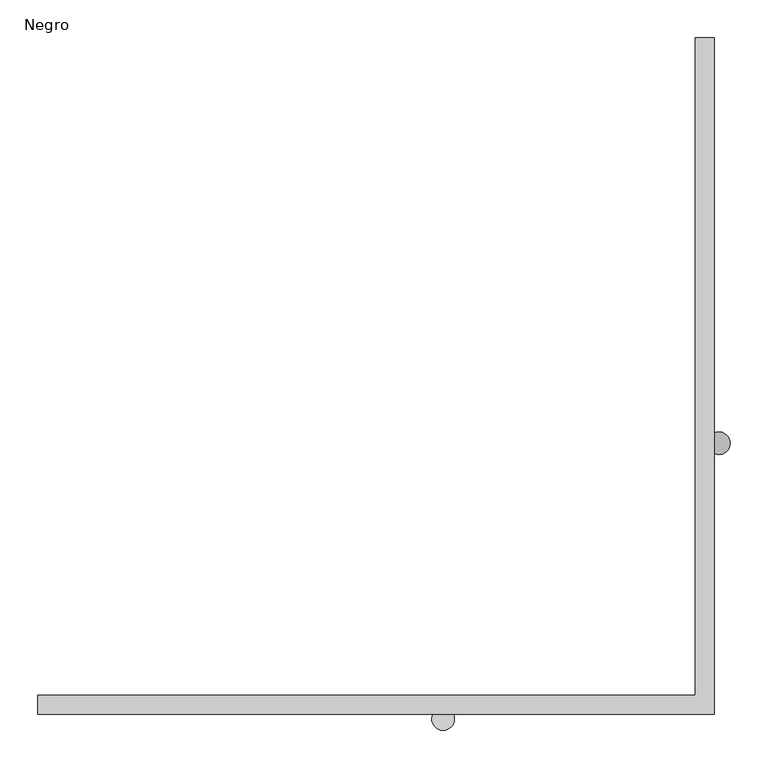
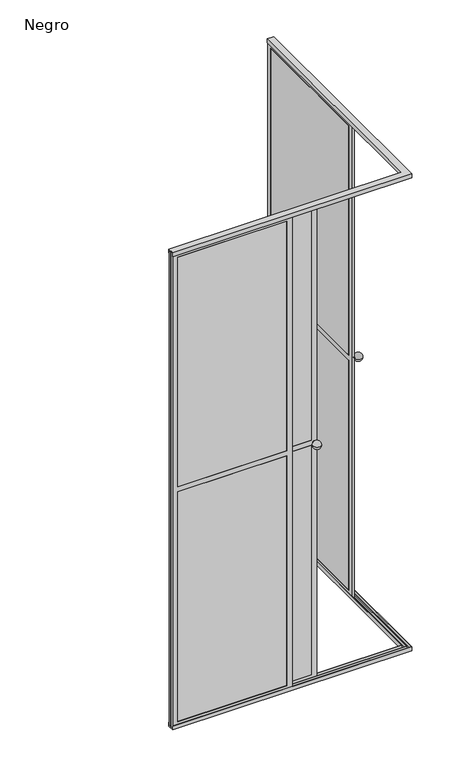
"""IFC4 building model written with IfcOpenShell, lengths in millimetres: furniture geometry, Mampara Cuadrada Perfilería : Negro."""

from ifc_helpers import new_model, si_unit, point, frame, origin, place, context, project, spatial, polyline, circle_curve, ellipse_curve, trimmed, outline, extrude, faceted_brep, source, transform, mapped, element, save
from ifc_brep_helpers import plane_surface, cylinder_surface, revolved_surface, advanced_brep


def negro_800ec4d1(model_context):
    return source(origin(), model_context, "Body", "SolidModel", [
        advanced_brep(
        [(886.5, -544.527068, 950.0), (886.5, -534.527068, 950.0), (886.5, -539.527068, 950.0), (892.2204998, -544.527068, 950.0), (892.2204998, -534.527068, 950.0), (921.4275136, -539.527068, 950.0)],
        [
            (0, 1, circle_curve(frame((886.5, -539.527068, 950.0), z_axis=(-1.0, 0.0, 0.0), x_axis=(0.0, 1.0, 0.0)), 5.0)),
            (1, 2),
            (2, 0),
            (1, 0, circle_curve(frame((886.5, -539.527068, 950.0), z_axis=(-1.0, 0.0, 0.0), x_axis=(0.0, 1.0, 0.0)), 5.0)),
            (3, 4, circle_curve(frame((892.2204998, -539.527068, 950.0), z_axis=(-1.0, 0.0, 0.0), x_axis=(0.0, 1.0, 0.0)), 5.0)),
            (4, 1),
            (0, 3),
            (4, 3, circle_curve(frame((892.2204998, -539.527068, 950.0), z_axis=(-1.0, 0.0, 0.0), x_axis=(0.0, 1.0, 0.0)), 5.0)),
            (5, 4, circle_curve(frame((906.3960273, -539.527068, 950.0), z_axis=(0.0, 0.0, 1.0), x_axis=(0.0, -1.0, 0.0)), 15.0314863)),
            (3, 5, circle_curve(frame((906.3960273, -539.527068, 950.0), z_axis=(0.0, 0.0, 1.0), x_axis=(0.0, 1.0, 0.0)), 15.0314863)),
        ],
        [
            plane_surface(frame((886.5, -539.527068, 950.0), z_axis=(-1.0, 0.0, 0.0), x_axis=(0.0, 1.0, 0.0))),
            cylinder_surface(frame((903.9637568, -539.527068, 950.0), z_axis=(1.0, 0.0, 0.0), x_axis=(0.0, 1.0, 0.0)), 5.0),
            revolved_surface(trimmed(ellipse_curve(frame((906.3960273, -539.527068, 950.0), z_axis=(0.0, 0.0, -1.0), x_axis=(0.0, -1.0, 0.0)), 15.0314863, 15.0314863), [point((892.2204998, -534.527068, 950.0))], [point((921.4275136, -539.527068, 950.0))], True, "CARTESIAN"), (903.9637568, -539.527068, 950.0), (1.0, 0.0, 0.0)),
        ],
        [
            (0, [[1, 2, 3]]),
            (0, [[4, -3, -2]]),
            (1, [[5, 6, -1, 7]]),
            (1, [[8, -7, -4, -6]]),
            (2, [[9, -5, 10]]),
            (2, [[-10, -8, -9]]),
        ],
    ),
        extrude(outline(polyline([(885.5, -20.0), (885.5, -530.0), (877.5, -530.0), (877.5, -20.0), (885.5, -20.0)])), frame((0.0, 0.0, 25.0), z_axis=(0.0, 0.0, 1.0), x_axis=(1.0, 0.0, 0.0)), (0.0, 0.0, 1.0), 915.0),
        extrude(outline(polyline([(885.5, -20.0), (885.5, -530.0), (877.5, -530.0), (877.5, -20.0), (885.5, -20.0)])), frame((0.0, 0.0, 960.0), z_axis=(0.0, 0.0, 1.0), x_axis=(1.0, 0.0, 0.0)), (0.0, 0.0, 1.0), 915.0),
        extrude(outline(polyline([(-550.0, 5.0), (-550.0, 1895.0), (0.0, 1895.0), (0.0, 5.0), (-550.0, 5.0)]), holes=[polyline([(-20.0, 960.0), (-20.0, 1875.0), (-530.0, 1875.0), (-530.0, 960.0), (-20.0, 960.0)]), polyline([(-530.0, 25.0), (-20.0, 25.0), (-20.0, 940.0), (-530.0, 940.0), (-530.0, 25.0)])]), frame((876.5, 0.0, 0.0), z_axis=(1.0, 0.0, 0.0), x_axis=(0.0, 1.0, 0.0)), (0.0, 0.0, 1.0), 10.0),
        advanced_brep(
        [(544.527068, -886.5, 950.0), (534.527068, -886.5, 950.0), (539.527068, -886.5, 950.0), (544.527068, -892.2204998, 950.0), (534.527068, -892.2204998, 950.0), (539.527068, -921.4275136, 950.0)],
        [
            (0, 1, circle_curve(frame((539.527068, -886.5, 950.0), z_axis=(0.0, 1.0, 0.0), x_axis=(-1.0, 0.0, 0.0)), 5.0)),
            (1, 2),
            (2, 0),
            (1, 0, circle_curve(frame((539.527068, -886.5, 950.0), z_axis=(0.0, 1.0, 0.0), x_axis=(-1.0, 0.0, 0.0)), 5.0)),
            (3, 4, circle_curve(frame((539.527068, -892.2204998, 950.0), z_axis=(0.0, 1.0, 0.0), x_axis=(-1.0, 0.0, 0.0)), 5.0)),
            (4, 1),
            (0, 3),
            (4, 3, circle_curve(frame((539.527068, -892.2204998, 950.0), z_axis=(0.0, 1.0, 0.0), x_axis=(-1.0, 0.0, 0.0)), 5.0)),
            (5, 4, circle_curve(frame((539.527068, -906.3960273, 950.0), z_axis=(0.0, 0.0, -1.0), x_axis=(1.0, 0.0, 0.0)), 15.0314863)),
            (3, 5, circle_curve(frame((539.527068, -906.3960273, 950.0), z_axis=(0.0, 0.0, -1.0), x_axis=(-1.0, 0.0, 0.0)), 15.0314863)),
        ],
        [
            plane_surface(frame((539.527068, -886.5, 950.0), z_axis=(0.0, 1.0, 0.0), x_axis=(-1.0, 0.0, 0.0))),
            cylinder_surface(frame((539.527068, -903.9637568, 950.0), z_axis=(0.0, -1.0, 0.0), x_axis=(-1.0, 0.0, 0.0)), 5.0),
            revolved_surface(trimmed(ellipse_curve(frame((539.527068, -906.3960273, 950.0), z_axis=(0.0, 0.0, 1.0), x_axis=(1.0, 0.0, 0.0)), 15.0314863, 15.0314863), [point((534.527068, -892.2204998, 950.0))], [point((539.527068, -921.4275136, 950.0))], True, "CARTESIAN"), (539.527068, -903.9637568, 950.0), (0.0, -1.0, 0.0)),
        ],
        [
            (0, [[1, 2, 3]]),
            (0, [[4, -3, -2]]),
            (1, [[5, 6, -1, 7]]),
            (1, [[8, -7, -4, -6]]),
            (2, [[9, -5, 10]]),
            (2, [[-10, -8, -9]]),
        ],
    ),
        extrude(outline(polyline([(530.0, -885.5), (20.0, -885.5), (20.0, -877.5), (530.0, -877.5), (530.0, -885.5)])), frame((0.0, 0.0, 960.0), z_axis=(0.0, 0.0, 1.0), x_axis=(1.0, 0.0, 0.0)), (0.0, 0.0, 1.0), 915.0),
        extrude(outline(polyline([(530.0, -885.5), (20.0, -885.5), (20.0, -877.5), (530.0, -877.5), (530.0, -885.5)])), frame((0.0, 0.0, 25.0), z_axis=(0.0, 0.0, 1.0), x_axis=(1.0, 0.0, 0.0)), (0.0, 0.0, 1.0), 915.0),
        extrude(outline(polyline([(1895.0, 550.0), (1895.0, 0.0), (5.0, 0.0), (5.0, 550.0), (1895.0, 550.0)]), holes=[polyline([(940.0, 20.0), (940.0, 530.0), (25.0, 530.0), (25.0, 20.0), (940.0, 20.0)]), polyline([(1875.0, 530.0), (960.0, 530.0), (960.0, 20.0), (1875.0, 20.0), (1875.0, 530.0)])]), frame((0.0, -886.5, 0.0), z_axis=(0.0, 1.0, 0.0), x_axis=(0.0, 0.0, 1.0)), (0.0, 0.0, 1.0), 10.0),
        extrude(outline(polyline([(889.5, -430.0), (889.5, -20.0), (897.5, -20.0), (897.5, -430.0), (889.5, -430.0)])), frame((0.0, 0.0, 960.0), z_axis=(0.0, 0.0, 1.0), x_axis=(1.0, 0.0, 0.0)), (0.0, 0.0, 1.0), 915.0),
        extrude(outline(polyline([(889.5, -430.0), (889.5, -20.0), (897.5, -20.0), (897.5, -430.0), (889.5, -430.0)])), frame((0.0, 0.0, 25.0), z_axis=(0.0, 0.0, 1.0), x_axis=(1.0, 0.0, 0.0)), (0.0, 0.0, 1.0), 915.0),
        extrude(outline(polyline([(-450.0, 1895.0), (0.0, 1895.0), (0.0, 5.0), (-450.0, 5.0), (-450.0, 1895.0)]), holes=[polyline([(-20.0, 940.0), (-430.0, 940.0), (-430.0, 25.0), (-20.0, 25.0), (-20.0, 940.0)]), polyline([(-430.0, 1875.0), (-430.0, 960.0), (-20.0, 960.0), (-20.0, 1875.0), (-430.0, 1875.0)])]), frame((888.5, 0.0, 0.0), z_axis=(1.0, 0.0, 0.0), x_axis=(0.0, 1.0, 0.0)), (0.0, 0.0, 1.0), 10.0),
        extrude(outline(polyline([(430.0, -897.5), (20.0, -897.5), (20.0, -889.5), (430.0, -889.5), (430.0, -897.5)])), frame((0.0, 0.0, 960.0), z_axis=(0.0, 0.0, 1.0), x_axis=(1.0, 0.0, 0.0)), (0.0, 0.0, 1.0), 915.0),
        extrude(outline(polyline([(430.0, -897.5), (20.0, -897.5), (20.0, -889.5), (430.0, -889.5), (430.0, -897.5)])), frame((0.0, 0.0, 25.0), z_axis=(0.0, 0.0, 1.0), x_axis=(1.0, 0.0, 0.0)), (0.0, 0.0, 1.0), 915.0),
        extrude(outline(polyline([(1895.0, 450.0), (1895.0, 0.0), (5.0, 0.0), (5.0, 450.0), (1895.0, 450.0)]), holes=[polyline([(940.0, 20.0), (940.0, 430.0), (25.0, 430.0), (25.0, 20.0), (940.0, 20.0)]), polyline([(1875.0, 430.0), (960.0, 430.0), (960.0, 20.0), (1875.0, 20.0), (1875.0, 430.0)])]), frame((0.0, -898.5, 0.0), z_axis=(0.0, 1.0, 0.0), x_axis=(0.0, 0.0, 1.0)), (0.0, 0.0, 1.0), 10.0),
        faceted_brep([(900.0, -900.0, 1900.0), (900.0, -900.0, 1885.0), (900.0, 0.0, 1885.0), (900.0, 0.0, 1900.0), (0.0, -900.0, 1900.0), (0.0, -875.0, 1900.0), (0.0, -875.0, 1885.0), (0.0, -876.5, 1885.0), (0.0, -876.5, 1895.0), (0.0, -886.5, 1895.0), (0.0, -886.5, 1885.0), (0.0, -888.5, 1885.0), (0.0, -888.5, 1895.0), (0.0, -898.5, 1895.0), (0.0, -898.5, 1885.0), (0.0, -900.0, 1885.0), (898.5, -898.5, 1885.0), (898.5, 0.0, 1885.0), (876.5, 0.0, 1885.0), (876.5, -876.5, 1885.0), (875.0, -875.0, 1885.0), (875.0, 0.0, 1885.0), (888.5, 0.0, 1885.0), (888.5, -888.5, 1885.0), (886.5, -886.5, 1885.0), (886.5, 0.0, 1885.0), (898.5, -898.5, 1895.0), (888.5, 0.0, 1895.0), (898.5, 0.0, 1895.0), (888.5, -888.5, 1895.0), (876.5, 0.0, 1895.0), (886.5, 0.0, 1895.0), (886.5, -886.5, 1895.0), (876.5, -876.5, 1895.0), (875.0, -875.0, 1900.0), (875.0, 0.0, 1900.0)], [[[0, 1, 2, 3]], [[4, 5, 6, 7, 8, 9, 10, 11, 12, 13, 14, 15]], [[1, 0, 4, 15]], [[15, 14, 16, 17, 2, 1]], [[18, 19, 7, 6, 20, 21]], [[22, 23, 11, 10, 24, 25]], [[14, 13, 26, 16]], [[27, 28, 26, 13, 12, 29]], [[30, 31, 32, 9, 8, 33]], [[29, 12, 11, 23]], [[10, 9, 32, 24]], [[33, 8, 7, 19]], [[6, 5, 34, 20]], [[5, 4, 0, 3, 35, 34]], [[35, 3, 2, 17, 28, 27, 22, 25, 31, 30, 18, 21]], [[35, 21, 20, 34]], [[18, 30, 33, 19]], [[32, 31, 25, 24]], [[22, 27, 29, 23]], [[26, 28, 17, 16]]]),
        faceted_brep([(900.0, -900.0, 15.0), (900.0, -900.0, 0.0), (900.0, 0.0, 0.0), (900.0, 0.0, 15.0), (0.0, -875.0, 0.0), (0.0, -900.0, 0.0), (0.0, -900.0, 15.0), (0.0, -898.5, 15.0), (0.0, -898.5, 5.0), (0.0, -888.5, 5.0), (0.0, -888.5, 15.0), (0.0, -886.5, 15.0), (0.0, -886.5, 5.0), (0.0, -876.5, 5.0), (0.0, -876.5, 15.0), (0.0, -875.0, 15.0), (898.5, -898.5, 15.0), (898.5, -898.5, 5.0), (888.5, -888.5, 5.0), (888.5, -888.5, 15.0), (886.5, -886.5, 15.0), (886.5, -886.5, 5.0), (876.5, -876.5, 5.0), (876.5, -876.5, 15.0), (875.0, -875.0, 15.0), (875.0, -875.0, 0.0), (876.5, 0.0, 15.0), (875.0, 0.0, 15.0), (886.5, 0.0, 15.0), (888.5, 0.0, 15.0), (898.5, 0.0, 15.0), (898.5, 0.0, 5.0), (888.5, 0.0, 5.0), (886.5, 0.0, 5.0), (876.5, 0.0, 5.0), (875.0, 0.0, 0.0)], [[[0, 1, 2, 3]], [[4, 5, 6, 7, 8, 9, 10, 11, 12, 13, 14, 15]], [[8, 7, 16, 17]], [[18, 19, 10, 9]], [[12, 11, 20, 21]], [[22, 23, 14, 13]], [[4, 15, 24, 25]], [[15, 14, 23, 26, 27, 24]], [[28, 20, 11, 10, 19, 29]], [[30, 16, 7, 6, 0, 3]], [[18, 9, 8, 17, 31, 32]], [[22, 13, 12, 21, 33, 34]], [[1, 0, 6, 5]], [[5, 4, 25, 35, 2, 1]], [[2, 35, 27, 26, 34, 33, 28, 29, 32, 31, 30, 3]], [[22, 34, 26, 23]], [[33, 21, 20, 28]], [[18, 32, 29, 19]], [[31, 17, 16, 30]], [[27, 35, 25, 24]]]),
    ])


if __name__ == "__main__":
    model = new_model("IFC4")
    model_context = context("Model", 3, world=origin())
    ifc_project = project(units=[si_unit("LENGTHUNIT", "METRE", prefix="MILLI")], contexts=[model_context])
    site = spatial("IfcSite", under=ifc_project)
    building = spatial("IfcBuilding", under=site)
    placement = place(None, origin())
    negro_shape = negro_800ec4d1(model_context)
    element("IfcFurniture", 1, ObjectType="Mampara Cuadrada Perfilería : Negro", at=placement, inside=building, context=model_context, shape_type="MappedRepresentation", body=[
        mapped(negro_shape, transform((0.0, 0.0, 0.0), x_axis=(1.0, 0.0, 0.0), y_axis=(0.0, 1.0, 0.0), z_axis=(0.0, 0.0, 1.0))),
    ])
    save(model, "model.ifc")
